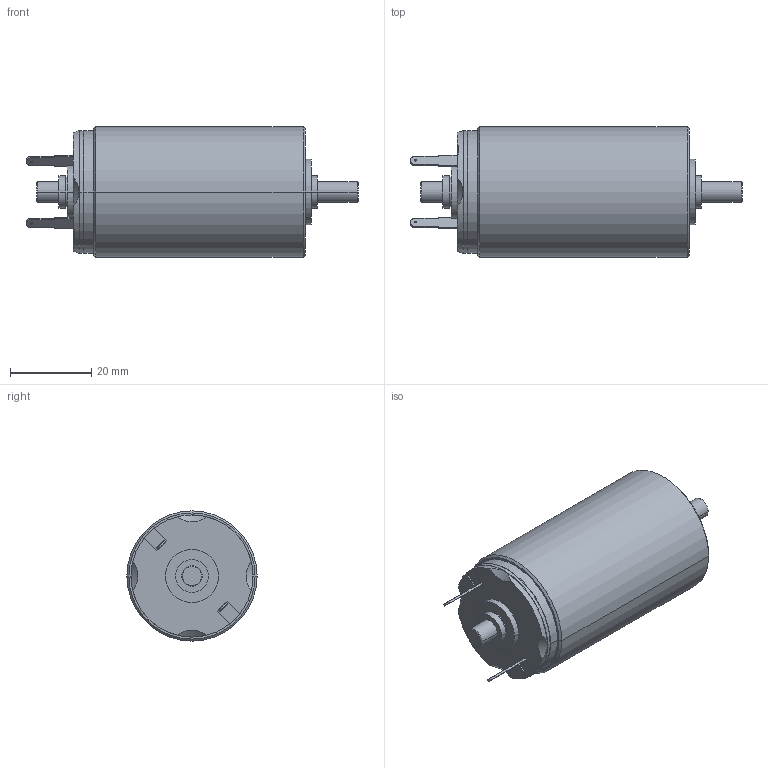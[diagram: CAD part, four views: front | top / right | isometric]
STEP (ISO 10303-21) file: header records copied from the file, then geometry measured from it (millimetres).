
FILE_DESCRIPTION((''),'2;1');
FILE_NAME('51730','2008-02-26T',('carefree'),(''),'PRO/ENGINEER BY PARAMETRIC TECHNOLOGY CORPORATION, 2005030','PRO/ENGINEER BY PARAMETRIC TECHNOLOGY CORPORATION, 2005030','');
FILE_SCHEMA(('CONFIG_CONTROL_DESIGN'));
Length unit declared in the file: millimetre
Products named in the file (1): 51730
Bounding box: 81.6 x 32 x 32 mm (x, y, z)
Volume: 46188 mm3; surface area: 8054.1 mm2
Topology: 1 solids, 1 shells, 94 faces, 214 edges, 136 vertices
Faces by surface type: cylinder 44, plane 38, cone 8, torus 4
Entity records: 2754 total; most frequent: CARTESIAN_POINT 516, DIRECTION 490, ORIENTED_EDGE 428, EDGE_CURVE 214, AXIS2_PLACEMENT_3D 192, VERTEX_POINT 136, EDGE_LOOP 112, VECTOR 106
